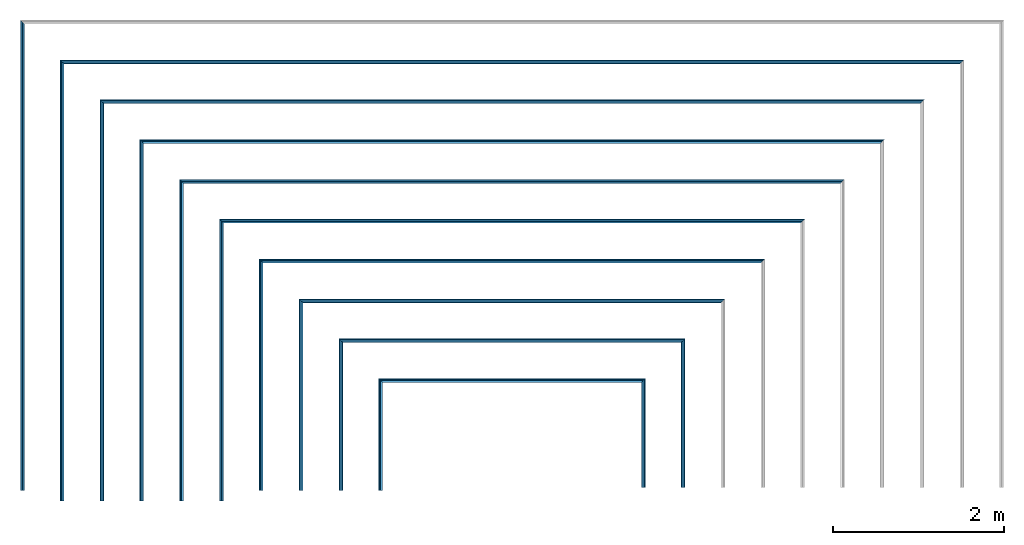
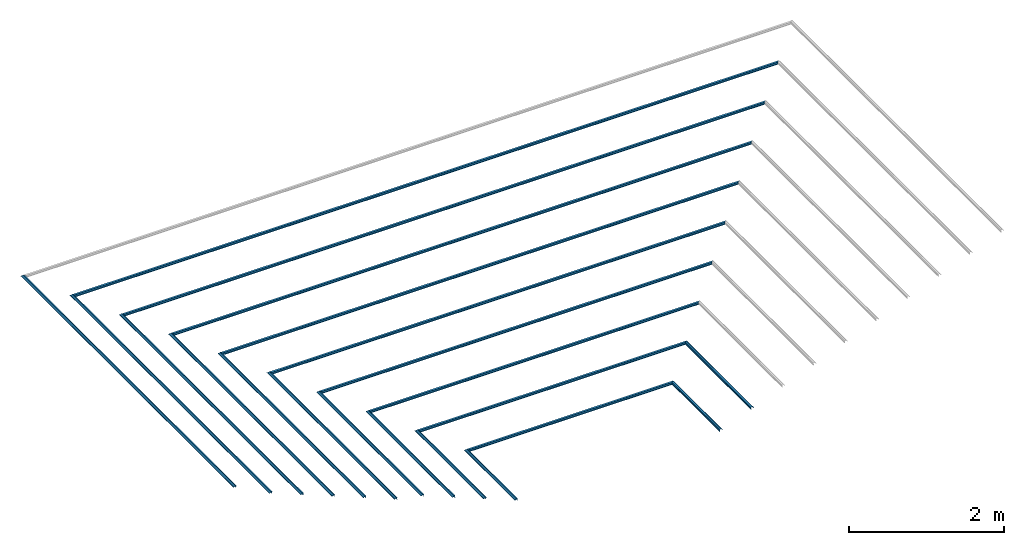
# One storey, part 1 of 2: 21 members.
"""IFC4X3_ADD2 building model written with IfcOpenShell, lengths in millimetres."""

import ifcopenshell
import ifcopenshell.guid

model = None  # the IFC model being written
_history = None  # IfcOwnerHistory: only IFC2X3 demands one
_inside = {}  # id of a spatial element -> (the spatial element, [elements in it])
_under = {}  # id of a project, library or spatial element -> (it, [spatial elements below it])
_declared = {}  # id of a project -> (the project, [libraries it declares])
_typed = {}  # id of a type object -> (the type object, [elements of that type])
_made_of = {}  # id of a material, layer set ... -> (it, [elements and type objects made of it])


def new_model(schema):
    """Start an empty IFC model of exactly this schema.

    Asked for "IFC4X3", IfcOpenShell would pick the latest addendum, in which some entities
    have other attributes; the version numbers below select the first issue.
    IFC2X3 requires an IfcOwnerHistory on every rooted entity: one is made here for all.
    """
    global model, _history
    if schema == "IFC4X3":
        model = ifcopenshell.file(schema_version=(4, 3, 0, 0))
    else:
        model = ifcopenshell.file(schema=schema)
    _inside.clear()
    _under.clear()
    _declared.clear()
    _typed.clear()
    _made_of.clear()
    _history = None
    if model.schema == "IFC2X3":
        org = make("IfcOrganization", Name="unknown")
        user = make(
            "IfcPersonAndOrganization",
            ThePerson=make("IfcPerson", FamilyName="unknown"),
            TheOrganization=org,
        )
        app = make(
            "IfcApplication",
            ApplicationDeveloper=org,
            Version="unknown",
            ApplicationFullName="unknown",
            ApplicationIdentifier="unknown",
        )
        _history = make(
            "IfcOwnerHistory",
            OwningUser=user,
            OwningApplication=app,
            ChangeAction="ADDED",
            CreationDate=0,
        )
    return model


def make(cls, **values):
    """One entity of the class cls with the attributes given. An attribute that is None is left unset."""
    return model.create_entity(
        cls, **{name: value for name, value in values.items() if value is not None}
    )


def entity(cls, *values):
    """Any entity or typed value of the class cls, its attributes in the order of the schema. None: left unset."""
    e = model.create_entity(cls)
    for i, value in enumerate(values):
        if value is not None:
            e[i] = value
    return e


def rooted(cls, **values):
    """An entity with a GlobalId (a new one), such as an element, a storey or a relation."""
    return make(cls, GlobalId=ifcopenshell.guid.new(), OwnerHistory=_history, **values)


def si_unit(unit_type, name, prefix=None):
    """IfcSIUnit, for example si_unit("LENGTHUNIT", "METRE", prefix="MILLI")."""
    return make("IfcSIUnit", UnitType=unit_type, Prefix=prefix, Name=name)


def converted_unit(unit_type, name, factor, base, dimensions=None, offset=None):
    """IfcConversionBasedUnit, such as the inch: factor (a typed value) times the base unit."""
    return make(
        "IfcConversionBasedUnit"
        if offset is None
        else "IfcConversionBasedUnitWithOffset",
        ConversionOffset=offset,
        Dimensions=None
        if dimensions is None
        else entity("IfcDimensionalExponents", *dimensions),
        UnitType=unit_type,
        Name=name,
        ConversionFactor=make(
            "IfcMeasureWithUnit", ValueComponent=factor, UnitComponent=base
        ),
    )


def assignment(units):
    """IfcUnitAssignment: the units of a project."""
    return None if units is None else make("IfcUnitAssignment", Units=units)


def point(xyz):
    """IfcCartesianPoint."""
    return None if xyz is None else make("IfcCartesianPoint", Coordinates=xyz)


def direction(xyz):
    """IfcDirection."""
    return None if xyz is None else make("IfcDirection", DirectionRatios=xyz)


def frame(location, z_axis=None, x_axis=None):
    """IfcAxis2Placement3D, a coordinate frame: its origin and axes. An axis left out is left unset."""
    return make(
        "IfcAxis2Placement3D",
        Location=point(location),
        Axis=direction(z_axis),
        RefDirection=direction(x_axis),
    )


def frame_2d(location, x_axis=None):
    """IfcAxis2Placement2D, a coordinate frame in the plane: its origin and x axis."""
    return make(
        "IfcAxis2Placement2D", Location=point(location), RefDirection=direction(x_axis)
    )


def origin_with_axes():
    """The frame at (0, 0, 0) with the z axis (0, 0, 1) and the x axis (1, 0, 0) written out."""
    return frame((0.0, 0.0, 0.0), z_axis=(0.0, 0.0, 1.0), x_axis=(1.0, 0.0, 0.0))


def origin_2d_with_axis():
    """The frame at (0, 0) in the plane with the x axis (1, 0) written out."""
    return frame_2d((0.0, 0.0), x_axis=(1.0, 0.0))


def place(relative_to, where):
    """IfcLocalPlacement: puts the frame where relative to a parent placement (None: the world)."""
    return make(
        "IfcLocalPlacement", PlacementRelTo=relative_to, RelativePlacement=where
    )


def context(
    kind, dimensions, precision=None, world=None, true_north=None, identifier=None
):
    """IfcGeometricRepresentationContext, for example the 3D "Model" context."""
    return make(
        "IfcGeometricRepresentationContext",
        ContextIdentifier=identifier,
        ContextType=kind,
        CoordinateSpaceDimension=dimensions,
        Precision=precision,
        WorldCoordinateSystem=world,
        TrueNorth=true_north,
    )


def subcontext(parent, identifier, kind, view, scale=None):
    """IfcGeometricRepresentationSubContext, for example "Body" below "Model"."""
    return make(
        "IfcGeometricRepresentationSubContext",
        ContextIdentifier=identifier,
        ContextType=kind,
        ParentContext=parent,
        TargetScale=scale,
        TargetView=view,
    )


def project(units=None, contexts=None):
    """IfcProject with its units and contexts."""
    return rooted(
        "IfcProject",
        Name="project",
        RepresentationContexts=contexts,
        UnitsInContext=assignment(units),
    )


def spatial(cls, under=None, at=None, **own):
    """A site, building, storey or space (cls), placed at a placement, below another one or the project."""
    s = rooted(cls, ObjectPlacement=at, **own)
    if under is not None:
        _under.setdefault(under.id(), (under, []))[1].append(s)
    return s


def point_list(points):
    """IfcCartesianPointList2D or 3D."""
    cls = (
        "IfcCartesianPointList2D" if len(points[0]) == 2 else "IfcCartesianPointList3D"
    )
    return make(cls, CoordList=points)


def indexed_curve(points, segments=None, self_intersect=None):
    """IfcIndexedPolyCurve: lines and arcs through numbered points (the first is 1)."""
    return make(
        "IfcIndexedPolyCurve",
        Points=point_list(points),
        Segments=segments,
        SelfIntersect=self_intersect,
    )


def outline(outer, holes=None, kind="AREA"):
    """IfcArbitraryClosedProfileDef: a profile drawn as a closed curve; with holes, ...WithVoids."""
    if holes is None:
        return make("IfcArbitraryClosedProfileDef", ProfileType=kind, OuterCurve=outer)
    return make(
        "IfcArbitraryProfileDefWithVoids",
        ProfileType=kind,
        OuterCurve=outer,
        InnerCurves=holes,
    )


def extrude(swept, where, along, depth):
    """IfcExtrudedAreaSolid: the profile swept, set in the frame where, extruded along a direction by depth."""
    return make(
        "IfcExtrudedAreaSolid",
        SweptArea=swept,
        Position=where,
        ExtrudedDirection=direction(along),
        Depth=depth,
    )


def clip(a, b, op="DIFFERENCE"):
    """IfcBooleanClippingResult: the solid a cut by the half space b."""
    return make(
        "IfcBooleanClippingResult", Operator=op, FirstOperand=a, SecondOperand=b
    )


def halfspace(plane, agree):
    """IfcHalfSpaceSolid: all space on one side of the plane z = 0 of the frame plane."""
    return make(
        "IfcHalfSpaceSolid",
        BaseSurface=make("IfcPlane", Position=plane),
        AgreementFlag=agree,
    )


def shape(context_of_items, identifier, shape_type, items):
    """IfcShapeRepresentation: the items that make up one representation, for example the "Body"."""
    return make(
        "IfcShapeRepresentation",
        ContextOfItems=context_of_items,
        RepresentationIdentifier=identifier,
        RepresentationType=shape_type,
        Items=items,
    )


def material(Name=None, Category=None):
    """IfcMaterial."""
    return make("IfcMaterial", Name=Name, Category=Category)


def material_profile(
    of_material, cross_section, Name=None, Category=None, Priority=None
):
    """IfcMaterialProfile: a cross section and its material."""
    return make(
        "IfcMaterialProfile",
        Name=Name,
        Material=of_material,
        Profile=cross_section,
        Priority=Priority,
        Category=Category,
    )


def profile_set(profiles, Name=None, composite=None):
    """IfcMaterialProfileSet."""
    return make(
        "IfcMaterialProfileSet",
        Name=Name,
        MaterialProfiles=profiles,
        CompositeProfile=composite,
    )


def profile_usage(for_profile_set, cardinal=None, extent=None):
    """IfcMaterialProfileSetUsage: how a profile set lies along its element."""
    return make(
        "IfcMaterialProfileSetUsage",
        ForProfileSet=for_profile_set,
        CardinalPoint=cardinal,
        ReferenceExtent=extent,
    )


def made_of(thing, what):
    """Note that an element or type object is made of a material, layer set ...; save() writes the relation."""
    if what is not None:
        _made_of.setdefault(what.id(), (what, []))[1].append(thing)
    return thing


def type_object(cls, material=None, **own):
    """A type object (cls), such as IfcWallType, which elements share."""
    return made_of(rooted(cls, **own), material)


def element(
    cls,
    number,
    at=None,
    inside=None,
    cuts=None,
    type_object=None,
    material=None,
    context=None,
    identifier="Body",
    shape_type=None,
    held_by="IfcProductDefinitionShape",
    body=None,
    shapes=None,
    **own,
):
    """One element of the class cls, such as IfcWall. Its Tag is "e" and its number.

    at: its placement. inside: the storey or other place that contains it. cuts: it is an
    opening in that element (IfcRelVoidsElement). A single representation is given by context,
    identifier, shape_type and body (its items); several are given by shapes. held_by: the class
    of the entity that holds the representations. save() writes the other relations.
    """
    e = rooted(cls, Tag="e%d" % number, ObjectPlacement=at, **own)
    if body is not None:
        shapes = [shape(context, identifier, shape_type, body)]
    if shapes is not None:
        e.Representation = make(held_by, Representations=shapes)
    if inside is not None:
        _inside.setdefault(inside.id(), (inside, []))[1].append(e)
    if cuts is not None:
        rooted(
            "IfcRelVoidsElement", RelatingBuildingElement=cuts, RelatedOpeningElement=e
        )
    if type_object is not None:
        _typed.setdefault(type_object.id(), (type_object, []))[1].append(e)
    return made_of(e, material)


def aggregate(whole, parts):
    """IfcRelAggregates: a whole, such as a stair, and the parts it consists of."""
    return rooted("IfcRelAggregates", RelatingObject=whole, RelatedObjects=parts)


def save(model, path):
    """Write the relations noted so far, then the file.

    IfcRelAggregates (storeys below a building ...), IfcRelContainedInSpatialStructure (elements
    in a storey), IfcRelDefinesByType, IfcRelAssociatesMaterial and IfcRelDeclares: one each for
    every whole, place, type object, material and project.
    """
    for whole, parts in _under.values():
        aggregate(whole, parts)
    for where, things in _inside.values():
        rooted(
            "IfcRelContainedInSpatialStructure",
            RelatedElements=things,
            RelatingStructure=where,
        )
    for kind, things in _typed.values():
        rooted("IfcRelDefinesByType", RelatedObjects=things, RelatingType=kind)
    for what, things in _made_of.values():
        rooted("IfcRelAssociatesMaterial", RelatedObjects=things, RelatingMaterial=what)
    for by, libraries in _declared.values():
        rooted("IfcRelDeclares", RelatingContext=by, RelatedDefinitions=libraries)
    model.write(path)


model = new_model("IFC4X3_ADD2")

# Units and contexts
model_context = context("Model", 3, precision=1e-05, world=origin_with_axes())
plan_context = context("Plan", 2, precision=1e-05, world=origin_2d_with_axis())
body_context = subcontext(model_context, "Body", "Model", "MODEL_VIEW")
ifc_project = project(units=[si_unit("VOLUMEUNIT", "CUBIC_METRE"), si_unit("LENGTHUNIT", "METRE", prefix="MILLI"), converted_unit("PLANEANGLEUNIT", "degree", entity("IfcReal", 0.0174532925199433), si_unit("PLANEANGLEUNIT", "RADIAN"), dimensions=[0, 0, 0, 0, 0, 0, 0]), si_unit("AREAUNIT", "SQUARE_METRE")], contexts=[model_context, plan_context])

# Site, building, storey
site_placement = place(None, origin_with_axes())
site = spatial("IfcSite", under=ifc_project, at=site_placement, Name="My Site")
building_placement = place(site_placement, origin_with_axes())
building = spatial("IfcBuilding", under=site, at=building_placement, Name="My Building")
storey_placement = place(building_placement, frame((0.0, 0.0, 10000.0), z_axis=(0.0, 0.0, 1.0), x_axis=(1.0, 0.0, 0.0)))
storey = spatial("IfcBuildingStorey", under=building, at=storey_placement, Name="ATAS")

# Members
ifc_material = material(Name="plester")
ifc_material_profile = material_profile(ifc_material, outline(indexed_curve([(-9.99999977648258, -0.749990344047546), (9.99999977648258, -0.749990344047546), (15.0000005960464, -30.7499915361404), (25.0000022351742, -30.7499915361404), (25.0000022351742, -29.999990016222), (15.635346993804, -29.999990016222), (10.6353452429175, 9.31322574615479e-06), (-10.6353452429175, 9.31322574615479e-06), (-15.635346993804, -29.999990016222), (-25.0000022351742, -29.999990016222), (-25.0000022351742, -30.7499915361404), (-15.0000005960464, -30.7499915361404), (-9.99999977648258, -0.749990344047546)])))
ifc_profile_set = profile_set([ifc_material_profile])
ifc_profile_usage_1 = profile_usage(ifc_profile_set, cardinal=5)
member_type = type_object("IfcMemberType", Name="Reng", PredefinedType="MEMBER", material=ifc_profile_set)
member_1_placement = place(storey_placement, frame((4198.16064834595, 100.000634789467, -3349.92790222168), z_axis=(-2.97865057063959e-07, 0.999999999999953, 7.01231712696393e-08), x_axis=(-0.928809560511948, -3.02644558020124e-07, 0.370557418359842)))
element("IfcMember", 1, at=member_1_placement, inside=storey, type_object=member_type, material=ifc_profile_usage_1, Name="Member", context=body_context, shape_type="Clipping", body=[
    clip(extrude(outline(indexed_curve([(-9.99999977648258, -0.749990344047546), (9.99999977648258, -0.749990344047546), (15.0000005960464, -30.7499915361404), (25.0000022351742, -30.7499915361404), (25.0000022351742, -29.999990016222), (15.635346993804, -29.999990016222), (10.6353452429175, 9.31322574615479e-06), (-10.6353452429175, 9.31322574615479e-06), (-15.635346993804, -29.999990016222), (-25.0000022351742, -29.999990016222), (-25.0000022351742, -30.7499915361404), (-15.0000005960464, -30.7499915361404), (-9.99999977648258, -0.749990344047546)])), origin_with_axes(), (0.0, 0.0, 1.0), 1348.78218788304), halfspace(frame((24.9997694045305, -6354.26139831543, 3637.79282569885), z_axis=(-0.656998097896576, 0.260785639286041, 0.707349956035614), x_axis=(0.368933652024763, 0.929455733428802, 0.0)), False)),
])
ifc_profile_usage_2 = profile_usage(ifc_profile_set, cardinal=5)
member_2_placement = place(storey_placement, frame((3733.75582695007, 100.00042617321, -3164.64900970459), z_axis=(-2.41635888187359e-07, 0.999999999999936, 2.62045006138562e-07), x_axis=(-0.928809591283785, -3.21536478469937e-07, 0.370557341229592)))
element("IfcMember", 2, at=member_2_placement, inside=storey, type_object=member_type, material=ifc_profile_usage_2, Name="Member", context=body_context, shape_type="Clipping", body=[
    clip(extrude(outline(indexed_curve([(-9.99999977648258, -0.749990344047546), (9.99999977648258, -0.749990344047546), (15.0000005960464, -30.7499915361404), (25.0000022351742, -30.7499915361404), (25.0000022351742, -29.999990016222), (15.635346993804, -29.999990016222), (10.6353452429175, 9.31322574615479e-06), (-10.6353452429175, 9.31322574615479e-06), (-15.635346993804, -29.999990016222), (-25.0000022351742, -29.999990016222), (-25.0000022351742, -30.7499915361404), (-15.0000005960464, -30.7499915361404), (-9.99999977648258, -0.749990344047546)])), origin_with_axes(), (0.0, 0.0, 1.0), 1813.1886851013), halfspace(frame((25.0002518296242, -6203.53269577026, 4046.62752151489), z_axis=(-0.656994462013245, 0.260786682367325, 0.707353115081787), x_axis=(0.368936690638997, 0.929454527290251, 0.0)), False)),
])
ifc_profile_usage_3 = profile_usage(ifc_profile_set, cardinal=5)
member_3_placement = place(storey_placement, frame((3269.3510055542, 100.000321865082, -2979.37059402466), z_axis=(-2.41635916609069e-07, 0.999999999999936, 2.62045006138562e-07), x_axis=(-0.928809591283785, -3.21536478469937e-07, 0.370557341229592)))
element("IfcMember", 3, at=member_3_placement, inside=storey, type_object=member_type, material=ifc_profile_usage_3, Name="Member", context=body_context, shape_type="Clipping", body=[
    clip(extrude(outline(indexed_curve([(-9.99999977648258, -0.749990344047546), (9.99999977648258, -0.749990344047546), (15.0000005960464, -30.7499915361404), (25.0000022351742, -30.7499915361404), (25.0000022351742, -29.999990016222), (15.635346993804, -29.999990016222), (10.6353452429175, 9.31322574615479e-06), (-10.6353452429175, 9.31322574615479e-06), (-15.635346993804, -29.999990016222), (-25.0000022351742, -29.999990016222), (-25.0000022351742, -30.7499915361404), (-15.0000005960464, -30.7499915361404), (-9.99999977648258, -0.749990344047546)])), origin_with_axes(), (0.0, 0.0, 1.0), 2277.59384430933), halfspace(frame((25.0001214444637, -6052.80303955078, 4455.46197891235), z_axis=(-0.656995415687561, 0.260786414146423, 0.70735239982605), x_axis=(0.368935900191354, 0.929454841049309, 0.0)), False)),
])
ifc_profile_usage_4 = profile_usage(ifc_profile_set, cardinal=5)
member_4_placement = place(storey_placement, frame((2804.9464225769, 100.000470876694, -2794.09170150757), z_axis=(-2.41635916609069e-07, 0.999999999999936, 2.62045006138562e-07), x_axis=(-0.928809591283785, -3.21536478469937e-07, 0.370557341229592)))
element("IfcMember", 4, at=member_4_placement, inside=storey, type_object=member_type, material=ifc_profile_usage_4, Name="Member", context=body_context, shape_type="Clipping", body=[
    clip(extrude(outline(indexed_curve([(-9.99999977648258, -0.749990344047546), (9.99999977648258, -0.749990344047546), (15.0000005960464, -30.7499915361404), (25.0000022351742, -30.7499915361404), (25.0000022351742, -29.999990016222), (15.635346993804, -29.999990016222), (10.6353452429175, 9.31322574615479e-06), (-10.6353452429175, 9.31322574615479e-06), (-15.635346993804, -29.999990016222), (-25.0000022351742, -29.999990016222), (-25.0000022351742, -30.7499915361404), (-15.0000005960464, -30.7499915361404), (-9.99999977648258, -0.749990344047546)])), origin_with_axes(), (0.0, 0.0, 1.0), 2741.99917138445), halfspace(frame((24.9999295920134, -5902.07433700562, 4864.29786682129), z_axis=(-0.65699976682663, 0.260785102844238, 0.707348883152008), x_axis=(0.368932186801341, 0.929456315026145, 0.0)), False)),
])
ifc_profile_usage_5 = profile_usage(ifc_profile_set, cardinal=5)
member_5_placement = place(storey_placement, frame((2340.54136276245, -20.0000107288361, -2608.81328582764), z_axis=(-2.41635916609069e-07, 0.999999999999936, 2.62045006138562e-07), x_axis=(-0.928809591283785, -3.21536478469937e-07, 0.370557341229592)))
element("IfcMember", 5, at=member_5_placement, inside=storey, type_object=member_type, material=ifc_profile_usage_5, Name="Member", context=body_context, shape_type="Clipping", body=[
    clip(extrude(outline(indexed_curve([(-9.99999977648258, -0.749990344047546), (9.99999977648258, -0.749990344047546), (15.0000005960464, -30.7499915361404), (25.0000022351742, -30.7499915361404), (25.0000022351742, -29.999990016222), (15.635346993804, -29.999990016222), (10.6353452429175, 9.31322574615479e-06), (-10.6353452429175, 9.31322574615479e-06), (-15.635346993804, -29.999990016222), (-25.0000022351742, -29.999990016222), (-25.0000022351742, -30.7499915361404), (-15.0000005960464, -30.7499915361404), (-9.99999977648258, -0.749990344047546)])), origin_with_axes(), (0.0, 0.0, 1.0), 3326.40525550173), halfspace(frame((25.0002294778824, -5751.34468078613, 5393.13268661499), z_axis=(-0.656995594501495, 0.260786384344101, 0.707352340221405), x_axis=(0.36893577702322, 0.929454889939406, 0.0)), False)),
])
ifc_profile_usage_6 = profile_usage(ifc_profile_set, cardinal=5)
member_6_placement = place(storey_placement, frame((1876.13677978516, -20.0001895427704, -2423.53439331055), z_axis=(-2.41635916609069e-07, 0.999999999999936, 2.62045006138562e-07), x_axis=(-0.928809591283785, -3.21536478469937e-07, 0.370557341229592)))
element("IfcMember", 6, at=member_6_placement, inside=storey, type_object=member_type, material=ifc_profile_usage_6, Name="Member", context=body_context, shape_type="Clipping", body=[
    clip(extrude(outline(indexed_curve([(-9.99999977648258, -0.749990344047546), (9.99999977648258, -0.749990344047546), (15.0000005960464, -30.7499915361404), (25.0000022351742, -30.7499915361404), (25.0000022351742, -29.999990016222), (15.635346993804, -29.999990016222), (10.6353452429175, 9.31322574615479e-06), (-10.6353452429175, 9.31322574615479e-06), (-15.635346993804, -29.999990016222), (-25.0000022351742, -29.999990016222), (-25.0000022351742, -30.7499915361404), (-15.0000005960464, -30.7499915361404), (-9.99999977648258, -0.749990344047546)])), origin_with_axes(), (0.0, 0.0, 1.0), 3790.81147718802), halfspace(frame((25.0002928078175, -5600.61597824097, 5801.96762084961), z_axis=(-0.656994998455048, 0.260786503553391, 0.707352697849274), x_axis=(0.368936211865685, 0.929454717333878, 0.0)), False)),
])
ifc_profile_usage_7 = profile_usage(ifc_profile_set, cardinal=5)
member_7_placement = place(storey_placement, frame((1411.73195838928, -20.0003385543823, -2238.25550079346), z_axis=(-2.41635916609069e-07, 0.999999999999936, 2.62045006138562e-07), x_axis=(-0.928809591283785, -3.21536478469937e-07, 0.370557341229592)))
element("IfcMember", 7, at=member_7_placement, inside=storey, type_object=member_type, material=ifc_profile_usage_7, Name="Member", context=body_context, shape_type="Clipping", body=[
    clip(extrude(outline(indexed_curve([(-9.99999977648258, -0.749990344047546), (9.99999977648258, -0.749990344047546), (15.0000005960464, -30.7499915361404), (25.0000022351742, -30.7499915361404), (25.0000022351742, -29.999990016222), (15.635346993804, -29.999990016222), (10.6353452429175, 9.31322574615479e-06), (-10.6353452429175, 9.31322574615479e-06), (-15.635346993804, -29.999990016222), (-25.0000022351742, -29.999990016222), (-25.0000022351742, -30.7499915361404), (-15.0000005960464, -30.7499915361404), (-9.99999977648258, -0.749990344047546)])), origin_with_axes(), (0.0, 0.0, 1.0), 4255.21754711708), halfspace(frame((25.0003691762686, -5449.8872756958, 6210.80255508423), z_axis=(-0.656995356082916, 0.260786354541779, 0.707352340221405), x_axis=(0.368935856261, 0.929454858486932, 0.0)), False)),
])
ifc_profile_usage_8 = profile_usage(ifc_profile_set, cardinal=5)
member_8_placement = place(storey_placement, frame((947.327077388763, -20.0005173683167, -2052.97660827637), z_axis=(-2.41635916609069e-07, 0.999999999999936, 2.62045006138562e-07), x_axis=(-0.928809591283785, -3.21536478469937e-07, 0.370557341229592)))
element("IfcMember", 8, at=member_8_placement, inside=storey, type_object=member_type, material=ifc_profile_usage_8, Name="Member", context=body_context, shape_type="Clipping", body=[
    clip(extrude(outline(indexed_curve([(-9.99999977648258, -0.749990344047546), (9.99999977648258, -0.749990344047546), (15.0000005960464, -30.7499915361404), (25.0000022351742, -30.7499915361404), (25.0000022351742, -29.999990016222), (15.635346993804, -29.999990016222), (10.6353452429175, 9.31322574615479e-06), (-10.6353452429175, 9.31322574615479e-06), (-15.635346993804, -29.999990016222), (-25.0000022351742, -29.999990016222), (-25.0000022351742, -30.7499915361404), (-15.0000005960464, -30.7499915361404), (-9.99999977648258, -0.749990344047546)])), origin_with_axes(), (0.0, 0.0, 1.0), 4719.62260079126), halfspace(frame((25.0001791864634, -5299.15809631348, 6619.63701248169), z_axis=(-0.656992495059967, 0.26078724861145, 0.707354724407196), x_axis=(0.368938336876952, 0.929453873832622, 0.0)), False)),
])
ifc_profile_usage_9 = profile_usage(ifc_profile_set, cardinal=5)
member_9_placement = place(storey_placement, frame((482.922285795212, -20.0006067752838, -1867.69866943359), z_axis=(-2.41635916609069e-07, 0.999999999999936, 2.62045006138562e-07), x_axis=(-0.928809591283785, -3.21536478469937e-07, 0.370557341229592)))
element("IfcMember", 9, at=member_9_placement, inside=storey, type_object=member_type, material=ifc_profile_usage_9, Name="Member", context=body_context, shape_type="Clipping", body=[
    clip(extrude(outline(indexed_curve([(-9.99999977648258, -0.749990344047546), (9.99999977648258, -0.749990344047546), (15.0000005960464, -30.7499915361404), (25.0000022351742, -30.7499915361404), (25.0000022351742, -29.999990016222), (15.635346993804, -29.999990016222), (10.6353452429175, 9.31322574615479e-06), (-10.6353452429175, 9.31322574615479e-06), (-15.635346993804, -29.999990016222), (-25.0000022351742, -29.999990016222), (-25.0000022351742, -30.7499915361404), (-15.0000005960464, -30.7499915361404), (-9.99999977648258, -0.749990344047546)])), origin_with_axes(), (0.0, 0.0, 1.0), 5184.02810709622), halfspace(frame((25.0002257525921, -5148.42844009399, 7028.47194671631), z_axis=(-0.656990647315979, 0.26078787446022, 0.707356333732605), x_axis=(0.368939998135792, 0.929453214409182, 0.0)), False)),
])
ifc_profile_usage_10 = profile_usage(ifc_profile_set, cardinal=5)
member_10_placement = place(storey_placement, frame((18.5174345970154, 100.000455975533, -1682.4197769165), z_axis=(-2.41635916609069e-07, 0.999999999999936, 2.62045006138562e-07), x_axis=(-0.928809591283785, -3.21536478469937e-07, 0.370557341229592)))
element("IfcMember", 10, at=member_10_placement, inside=storey, type_object=member_type, material=ifc_profile_usage_10, Name="Member", context=body_context, shape_type="Clipping", body=[
    clip(extrude(outline(indexed_curve([(-9.99999977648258, -0.749990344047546), (9.99999977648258, -0.749990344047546), (15.0000005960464, -30.7499915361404), (25.0000022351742, -30.7499915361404), (25.0000022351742, -29.999990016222), (15.635346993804, -29.999990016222), (10.6353452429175, 9.31322574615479e-06), (-10.6353452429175, 9.31322574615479e-06), (-15.635346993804, -29.999990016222), (-25.0000022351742, -29.999990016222), (-25.0000022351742, -30.7499915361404), (-15.0000005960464, -30.7499915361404), (-9.99999977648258, -0.749990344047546)])), origin_with_axes(), (0.0, 0.0, 1.0), 5528.43373473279), halfspace(frame((25.0003337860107, -4997.69926071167, 7317.30651855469), z_axis=(-0.656991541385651, 0.260787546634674, 0.707355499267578), x_axis=(0.368939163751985, 0.929453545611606, 0.0)), False)),
])
ifc_profile_usage_11 = profile_usage(ifc_profile_set, cardinal=15)
member_11_placement = place(storey_placement, frame((4121.24967575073, 1371.87957763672, -3349.91359710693), z_axis=(0.999999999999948, -2.66541633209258e-07, 1.80971539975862e-07), x_axis=(1.80971543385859e-07, 0.929454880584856, 0.368935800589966)))
element("IfcMember", 11, at=member_11_placement, inside=storey, type_object=member_type, material=ifc_profile_usage_11, Name="Member", context=body_context, shape_type="Clipping", body=[
    clip(clip(extrude(outline(indexed_curve([(-9.99999977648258, -0.749990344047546), (9.99999977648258, -0.749990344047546), (15.0000005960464, -30.7499915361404), (25.0000022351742, -30.7499915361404), (25.0000022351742, -29.999990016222), (15.635346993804, -29.999990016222), (10.6353452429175, 9.31322574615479e-06), (-10.6353452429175, 9.31322574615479e-06), (-15.635346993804, -29.999990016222), (-25.0000022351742, -29.999990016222), (-25.0000022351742, -30.7499915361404), (-15.0000005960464, -30.7499915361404), (-9.99999977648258, -0.749990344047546)])), origin_with_axes(), (0.0, 0.0, 1.0), 3197.48738707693), halfspace(frame((25.000574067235, -6349.82061386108, -2300.93026161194), z_axis=(-0.656994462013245, 0.262115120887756, -0.706861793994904), x_axis=(0.370558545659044, 0.928809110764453, 0.0)), False)), halfspace(frame((25.0005125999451, -2620.50127983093, 4115.52715301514), z_axis=(-0.656982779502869, 0.262118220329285, 0.706871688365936), x_axis=(0.370568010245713, 0.928805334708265, 0.0)), False)),
])
ifc_profile_usage_12 = profile_usage(ifc_profile_set, cardinal=15)
member_12_placement = place(storey_placement, frame((3656.52108192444, 1836.60733699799, -3165.44485092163), z_axis=(0.999999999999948, -2.66541661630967e-07, 1.80971539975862e-07), x_axis=(1.80971539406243e-07, 0.929454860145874, 0.368935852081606)))
element("IfcMember", 12, at=member_12_placement, inside=storey, type_object=member_type, material=ifc_profile_usage_12, Name="Member", context=body_context, shape_type="Clipping", body=[
    clip(clip(extrude(outline(indexed_curve([(-9.99999977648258, -0.749990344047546), (9.99999977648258, -0.749990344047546), (15.0000005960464, -30.7499915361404), (25.0000022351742, -30.7499915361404), (25.0000022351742, -29.999990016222), (15.635346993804, -29.999990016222), (10.6353452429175, 9.31322574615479e-06), (-10.6353452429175, 9.31322574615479e-06), (-15.635346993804, -29.999990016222), (-25.0000022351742, -29.999990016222), (-25.0000022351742, -30.7499915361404), (-15.0000005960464, -30.7499915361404), (-9.99999977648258, -0.749990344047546)])), origin_with_axes(), (0.0, 0.0, 1.0), 4126.9411085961), halfspace(frame((25.0004678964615, -2469.00701522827, 4988.80529403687), z_axis=(-0.656990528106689, 0.262115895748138, 0.70686548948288), x_axis=(0.370561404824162, 0.928807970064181, 0.0)), False)), halfspace(frame((25.0003803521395, -6198.32468032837, -2244.75336074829), z_axis=(-0.65699827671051, 0.262113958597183, -0.706858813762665), x_axis=(0.37055527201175, 0.928810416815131, 0.0)), False)),
])
ifc_profile_usage_13 = profile_usage(ifc_profile_set, cardinal=15)
member_13_placement = place(storey_placement, frame((3191.79272651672, 2301.33461952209, -2980.9775352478), z_axis=(0.999999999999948, -2.66541661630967e-07, 1.80971539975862e-07), x_axis=(1.80971539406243e-07, 0.929454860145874, 0.368935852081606)))
element("IfcMember", 13, at=member_13_placement, inside=storey, type_object=member_type, material=ifc_profile_usage_13, Name="Member", context=body_context, shape_type="Clipping", body=[
    clip(clip(extrude(outline(indexed_curve([(-9.99999977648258, -0.749990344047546), (9.99999977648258, -0.749990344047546), (15.0000005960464, -30.7499915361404), (25.0000022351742, -30.7499915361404), (25.0000022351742, -29.999990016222), (15.635346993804, -29.999990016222), (10.6353452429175, 9.31322574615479e-06), (-10.6353452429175, 9.31322574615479e-06), (-15.635346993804, -29.999990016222), (-25.0000022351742, -29.999990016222), (-25.0000022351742, -30.7499915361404), (-15.0000005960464, -30.7499915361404), (-9.99999977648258, -0.749990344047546)])), origin_with_axes(), (0.0, 0.0, 1.0), 5056.40034493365), halfspace(frame((24.9994415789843, -6046.82731628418, -2188.57574462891), z_axis=(-0.656997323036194, 0.262114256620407, -0.706859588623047), x_axis=(0.370556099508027, 0.928810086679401, 0.0)), False)), halfspace(frame((24.9994695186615, -2317.5106048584, 5862.08629608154), z_axis=(-0.657007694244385, 0.262110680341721, 0.706851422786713), x_axis=(0.370546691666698, 0.928813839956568, 0.0)), False)),
])
ifc_profile_usage_14 = profile_usage(ifc_profile_set, cardinal=15)
member_14_placement = place(storey_placement, frame((2727.06437110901, 2766.06225967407, -2796.50926589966), z_axis=(0.999999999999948, -2.66541661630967e-07, 1.80971539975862e-07), x_axis=(1.80971539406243e-07, 0.929454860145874, 0.368935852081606)))
element("IfcMember", 14, at=member_14_placement, inside=storey, type_object=member_type, material=ifc_profile_usage_14, Name="Member", context=body_context, shape_type="Clipping", body=[
    clip(clip(extrude(outline(indexed_curve([(-9.99999977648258, -0.749990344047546), (9.99999977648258, -0.749990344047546), (15.0000005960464, -30.7499915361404), (25.0000022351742, -30.7499915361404), (25.0000022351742, -29.999990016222), (15.635346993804, -29.999990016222), (10.6353452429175, 9.31322574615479e-06), (-10.6353452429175, 9.31322574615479e-06), (-15.635346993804, -29.999990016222), (-25.0000022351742, -29.999990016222), (-25.0000022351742, -30.7499915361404), (-15.0000005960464, -30.7499915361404), (-9.99999977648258, -0.749990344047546)])), origin_with_axes(), (0.0, 0.0, 1.0), 5985.85559666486), halfspace(frame((24.9997805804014, -2166.01467132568, 6735.36443710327), z_axis=(-0.657000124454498, 0.262113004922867, 0.706857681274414), x_axis=(0.370553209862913, 0.928811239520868, 0.0)), False)), halfspace(frame((24.9998457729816, -5895.33090591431, -2132.3983669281), z_axis=(-0.657001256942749, 0.262113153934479, -0.706856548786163), x_axis=(0.370552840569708, 0.928811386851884, 0.0)), False)),
])
ifc_profile_usage_15 = profile_usage(ifc_profile_set, cardinal=15)
member_15_placement = place(storey_placement, frame((2262.33601570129, 3230.78966140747, -2612.04147338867), z_axis=(0.999999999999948, -2.66541661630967e-07, 1.80971539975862e-07), x_axis=(1.80971539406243e-07, 0.929454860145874, 0.368935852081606)))
element("IfcMember", 15, at=member_15_placement, inside=storey, type_object=member_type, material=ifc_profile_usage_15, Name="Member", context=body_context, shape_type="Clipping", body=[
    clip(clip(extrude(outline(indexed_curve([(-9.99999977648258, -0.749990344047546), (9.99999977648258, -0.749990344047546), (15.0000005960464, -30.7499915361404), (25.0000022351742, -30.7499915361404), (25.0000022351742, -29.999990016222), (15.635346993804, -29.999990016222), (10.6353452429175, 9.31322574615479e-06), (-10.6353452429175, 9.31322574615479e-06), (-15.635346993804, -29.999990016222), (-25.0000022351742, -29.999990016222), (-25.0000022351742, -30.7499915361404), (-15.0000005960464, -30.7499915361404), (-9.99999977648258, -0.749990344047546)])), origin_with_axes(), (0.0, 0.0, 1.0), 6915.31288349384), halfspace(frame((25.0003077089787, -5743.83354187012, -2076.22075080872), z_axis=(-0.657001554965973, 0.262113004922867, -0.706856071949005), x_axis=(0.370552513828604, 0.928811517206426, 0.0)), False)), halfspace(frame((24.9999742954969, -2014.51706886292, 7608.64400863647), z_axis=(-0.656984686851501, 0.262117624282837, 0.706870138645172), x_axis=(0.370566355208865, 0.928805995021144, 0.0)), False)),
])
ifc_profile_usage_16 = profile_usage(ifc_profile_set, cardinal=15)
member_16_placement = place(storey_placement, frame((1797.60754108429, 3695.51730155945, -2427.57368087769), z_axis=(0.999999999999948, -2.66541661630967e-07, 1.80971539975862e-07), x_axis=(1.80971539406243e-07, 0.929454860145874, 0.368935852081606)))
element("IfcMember", 16, at=member_16_placement, inside=storey, type_object=member_type, material=ifc_profile_usage_16, Name="Member", context=body_context, shape_type="Clipping", body=[
    clip(clip(extrude(outline(indexed_curve([(-9.99999977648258, -0.749990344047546), (9.99999977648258, -0.749990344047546), (15.0000005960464, -30.7499915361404), (25.0000022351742, -30.7499915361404), (25.0000022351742, -29.999990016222), (15.635346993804, -29.999990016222), (10.6353452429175, 9.31322574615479e-06), (-10.6353452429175, 9.31322574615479e-06), (-15.635346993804, -29.999990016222), (-25.0000022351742, -29.999990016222), (-25.0000022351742, -30.7499915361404), (-15.0000005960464, -30.7499915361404), (-9.99999977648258, -0.749990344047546)])), origin_with_axes(), (0.0, 0.0, 1.0), 7844.76856442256), halfspace(frame((25.0001139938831, -5592.33665466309, -2020.04384994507), z_axis=(-0.656997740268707, 0.262114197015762, -0.706859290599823), x_axis=(0.370555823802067, 0.928810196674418, 0.0)), False)), halfspace(frame((24.9995719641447, -1863.0199432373, 8481.92405700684), z_axis=(-0.657001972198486, 0.262112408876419, 0.706856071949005), x_axis=(0.37055158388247, 0.928811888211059, 0.0)), False)),
])
ifc_profile_usage_17 = profile_usage(ifc_profile_set, cardinal=15)
member_17_placement = place(storey_placement, frame((1332.878947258, 4160.24494171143, -2243.10636520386), z_axis=(0.999999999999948, -2.66541661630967e-07, 1.80971539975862e-07), x_axis=(1.80971539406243e-07, 0.929454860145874, 0.368935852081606)))
element("IfcMember", 17, at=member_17_placement, inside=storey, type_object=member_type, material=ifc_profile_usage_17, Name="Member", context=body_context, shape_type="Clipping", body=[
    clip(clip(extrude(outline(indexed_curve([(-9.99999977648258, -0.749990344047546), (9.99999977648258, -0.749990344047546), (15.0000005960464, -30.7499915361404), (25.0000022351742, -30.7499915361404), (25.0000022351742, -29.999990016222), (15.635346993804, -29.999990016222), (10.6353452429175, 9.31322574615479e-06), (-10.6353452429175, 9.31322574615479e-06), (-15.635346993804, -29.999990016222), (-25.0000022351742, -29.999990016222), (-25.0000022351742, -30.7499915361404), (-15.0000005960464, -30.7499915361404), (-9.99999977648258, -0.749990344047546)])), origin_with_axes(), (0.0, 0.0, 1.0), 8774.22532360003), halfspace(frame((25.0005982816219, -1711.52365207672, 9355.20267486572), z_axis=(-0.656978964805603, 0.262119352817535, 0.706874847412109), x_axis=(0.370571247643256, 0.928804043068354, 0.0)), False)), halfspace(frame((25.0009950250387, -5440.83833694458, -1963.86611461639), z_axis=(-0.656997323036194, 0.262114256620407, -0.706859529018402), x_axis=(0.370556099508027, 0.928810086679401, 0.0)), False)),
])
ifc_profile_usage_18 = profile_usage(ifc_profile_set, cardinal=15)
member_18_placement = place(storey_placement, frame((868.14957857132, 4624.97234344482, -2058.63857269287), z_axis=(0.999999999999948, -2.66541661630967e-07, 1.80971539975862e-07), x_axis=(1.80971539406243e-07, 0.929454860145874, 0.368935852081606)))
element("IfcMember", 18, at=member_18_placement, inside=storey, type_object=member_type, material=ifc_profile_usage_18, Name="Member", context=body_context, shape_type="Clipping", body=[
    clip(clip(extrude(outline(indexed_curve([(-9.99999977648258, -0.749990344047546), (9.99999977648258, -0.749990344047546), (15.0000005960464, -30.7499915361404), (25.0000022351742, -30.7499915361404), (25.0000022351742, -29.999990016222), (15.635346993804, -29.999990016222), (10.6353452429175, 9.31322574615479e-06), (-10.6353452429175, 9.31322574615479e-06), (-15.635346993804, -29.999990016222), (-25.0000022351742, -29.999990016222), (-25.0000022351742, -30.7499915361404), (-15.0000005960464, -30.7499915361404), (-9.99999977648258, -0.749990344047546)])), origin_with_axes(), (0.0, 0.0, 1.0), 9703.68088559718), halfspace(frame((25.0003840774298, -5289.34240341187, -1907.68885612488), z_axis=(-0.656995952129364, 0.262114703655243, -0.706860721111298), x_axis=(0.370557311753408, 0.928809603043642, 0.0)), False)), halfspace(frame((25.0006727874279, -1560.02807617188, 10228.4832000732), z_axis=(-0.65698653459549, 0.262117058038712, 0.706868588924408), x_axis=(0.370564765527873, 0.928806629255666, 0.0)), False)),
])
ifc_profile_usage_19 = profile_usage(ifc_profile_set, cardinal=15)
member_19_placement = place(storey_placement, frame((403.421938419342, 5089.69974517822, -1874.17030334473), z_axis=(0.999999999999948, -2.66541661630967e-07, 1.80971539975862e-07), x_axis=(1.80971539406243e-07, 0.929454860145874, 0.368935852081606)))
element("IfcMember", 19, at=member_19_placement, inside=storey, type_object=member_type, material=ifc_profile_usage_19, Name="Member", context=body_context, shape_type="Clipping", body=[
    clip(clip(extrude(outline(indexed_curve([(-9.99999977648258, -0.749990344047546), (9.99999977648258, -0.749990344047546), (15.0000005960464, -30.7499915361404), (25.0000022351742, -30.7499915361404), (25.0000022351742, -29.999990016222), (15.635346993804, -29.999990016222), (10.6353452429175, 9.31322574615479e-06), (-10.6353452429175, 9.31322574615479e-06), (-15.635346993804, -29.999990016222), (-25.0000022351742, -29.999990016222), (-25.0000022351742, -30.7499915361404), (-15.0000005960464, -30.7499915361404), (-9.99999977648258, -0.749990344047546)])), origin_with_axes(), (0.0, 0.0, 1.0), 10633.1368199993), halfspace(frame((25.0007472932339, -1408.53095054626, 11101.7618179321), z_axis=(-0.656994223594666, 0.262114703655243, 0.706862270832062), x_axis=(0.370558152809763, 0.928809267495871, 0.0)), False)), halfspace(frame((24.999713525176, -5137.84551620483, -1851.51171684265), z_axis=(-0.657002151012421, 0.262112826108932, -0.706855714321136), x_axis=(0.370552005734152, 0.928811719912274, 0.0)), False)),
])
ifc_profile_usage_20 = profile_usage(ifc_profile_set, cardinal=5)
member_20_placement = place(storey_placement, frame((7240.88144302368, 135.637700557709, -3347.55659103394), z_axis=(-3.53817654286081e-07, 0.999999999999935, 7.01231712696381e-08), x_axis=(-0.928809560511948, -3.02644558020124e-07, -0.370557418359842)))
element("IfcMember", 20, at=member_20_placement, inside=storey, type_object=member_type, material=ifc_profile_usage_20, Name="Member", context=body_context, shape_type="Clipping", body=[
    clip(extrude(outline(indexed_curve([(-9.99999977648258, -0.749990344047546), (9.99999977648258, -0.749990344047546), (15.0000005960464, -30.7499915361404), (25.0000022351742, -30.7499915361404), (25.0000022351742, -29.999990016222), (15.635346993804, -29.999990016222), (10.6353452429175, 9.31322574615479e-06), (-10.6353452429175, 9.31322574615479e-06), (-15.635346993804, -29.999990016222), (-25.0000022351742, -29.999990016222), (-25.0000022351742, -30.7499915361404), (-15.0000005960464, -30.7499915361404), (-9.99999977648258, -0.749990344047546)])), origin_with_axes(), (0.0, 0.0, 1.0), 1312.20314665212), halfspace(frame((-25.0000953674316, -2624.90224838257, 2226.27377510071), z_axis=(0.657009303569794, 0.260782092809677, 0.707341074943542), x_axis=(0.368923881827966, -0.929459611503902, 0.0)), False)),
])
ifc_profile_usage_21 = profile_usage(ifc_profile_set, cardinal=5)
member_21_placement = place(storey_placement, frame((7705.28507232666, 135.637849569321, -3162.27769851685), z_axis=(-3.82625472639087e-07, 0.999999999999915, 1.51322282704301e-07), x_axis=(-0.928809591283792, -2.99312634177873e-07, -0.370557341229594)))
element("IfcMember", 21, at=member_21_placement, inside=storey, type_object=member_type, material=ifc_profile_usage_21, Name="Member", context=body_context, shape_type="Clipping", body=[
    clip(extrude(outline(indexed_curve([(-9.99999977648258, -0.749990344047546), (9.99999977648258, -0.749990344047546), (15.0000005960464, -30.7499915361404), (25.0000022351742, -30.7499915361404), (25.0000022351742, -29.999990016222), (15.635346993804, -29.999990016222), (10.6353452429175, 9.31322574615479e-06), (-10.6353452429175, 9.31322574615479e-06), (-15.635346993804, -29.999990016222), (-25.0000022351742, -29.999990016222), (-25.0000022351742, -30.7499915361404), (-15.0000005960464, -30.7499915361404), (-9.99999977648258, -0.749990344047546)])), origin_with_axes(), (0.0, 0.0, 1.0), 1776.60882867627), halfspace(frame((-25.0006858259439, -2474.17569160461, 2635.10942459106), z_axis=(0.657001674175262, 0.260784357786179, 0.707347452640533), x_axis=(0.368930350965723, -0.929457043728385, 0.0)), False)),
])

save(model, "model.ifc")
